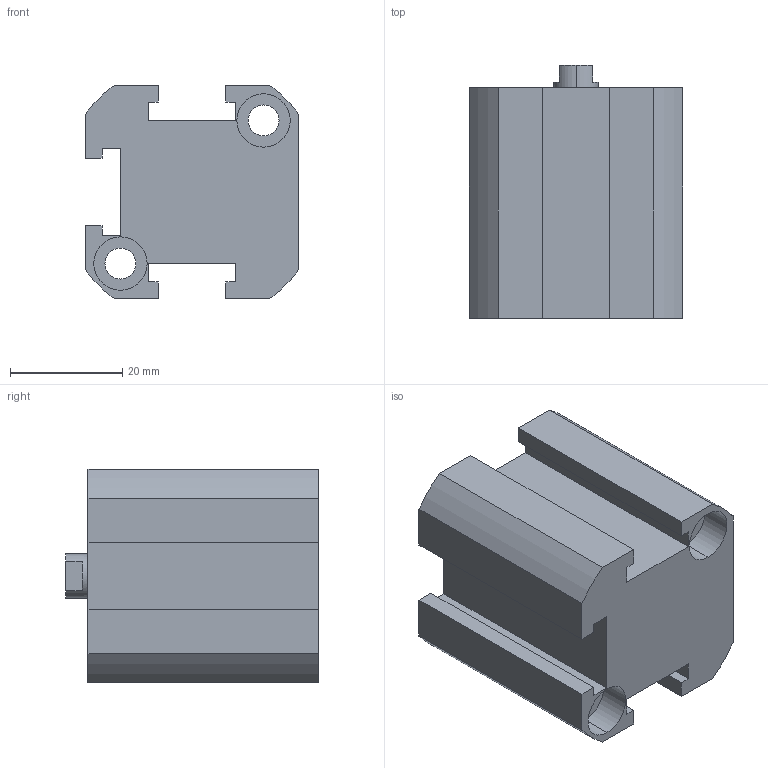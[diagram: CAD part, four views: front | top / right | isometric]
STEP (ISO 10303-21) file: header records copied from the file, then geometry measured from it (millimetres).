
FILE_DESCRIPTION (( 'STEP AP203' ), '1' );
FILE_NAME ('XG#1-20D-10.STEP', '2016-05-24T01:40:17', ( '' ), ( '' ), 'SwSTEP 2.0', 'SolidWorks 2014', '' );
FILE_SCHEMA (( 'CONFIG_CONTROL_DESIGN' ));
Length unit declared in the file: millimetre
Products named in the file (1): XG#1-20D-10
Bounding box: 38 x 45 x 38 mm (x, y, z)
Volume: 43062.6 mm3; surface area: 12599.5 mm2
Topology: 1 solids, 1 shells, 85 faces, 217 edges, 141 vertices
Faces by surface type: plane 44, cylinder 37, cone 4
Entity records: 2647 total; most frequent: DIRECTION 464, CARTESIAN_POINT 440, ORIENTED_EDGE 426, EDGE_CURVE 213, AXIS2_PLACEMENT_3D 165, VERTEX_POINT 141, VECTOR 134, LINE 134
